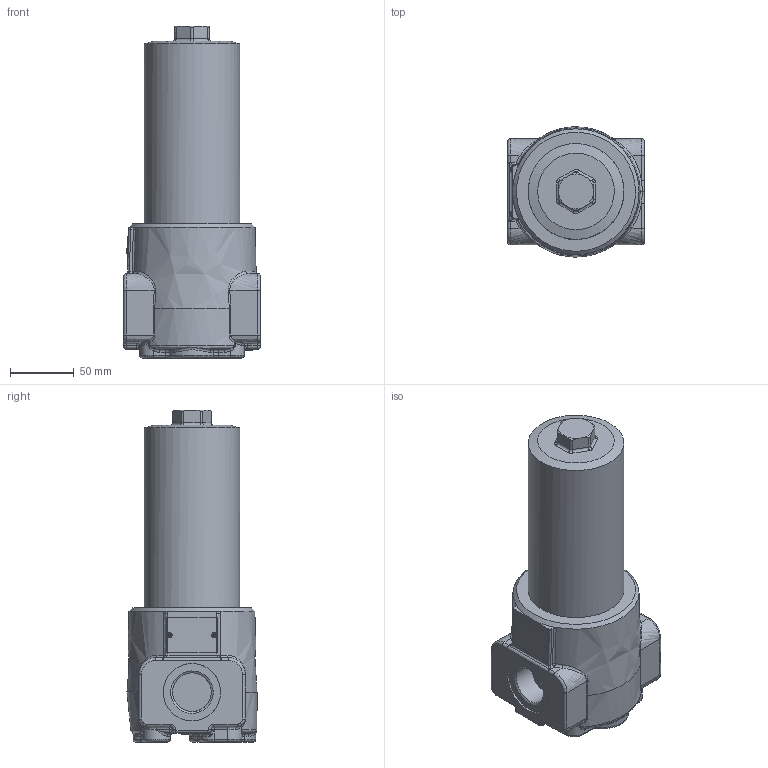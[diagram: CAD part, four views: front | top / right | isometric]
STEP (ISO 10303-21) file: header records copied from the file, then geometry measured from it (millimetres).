
FILE_DESCRIPTION((''),'2;1');
FILE_NAME('U:\Users\g.kooss\HD152_166(13565700).stp', '2013-04-25T14:12:15',('User'),('SDRC'),'I-DEAS Master Series 9','UNIX', 'Yes');
FILE_SCHEMA(('AUTOMOTIVE_DESIGN { 1 0 10303 214 1 1 1 1 }'));
Length unit declared in the file: millimetre
Products named in the file (1): 13565700(234164)
Bounding box: 107 x 101.83 x 260 mm (x, y, z)
Volume: 1501647.9 mm3; surface area: 93578.7 mm2
Topology: 1 solids, 1 shells, 371 faces, 885 edges, 532 vertices
Faces by surface type: bspline 371
Entity records: 14346 total; most frequent: CARTESIAN_POINT 9519, ORIENTED_EDGE 1708, EDGE_CURVE 854, VERTEX_POINT 505, EDGE_LOOP 391, B_SPLINE_CURVE_WITH_KNOTS 380, FACE_OUTER_BOUND 371, ADVANCED_FACE 371
